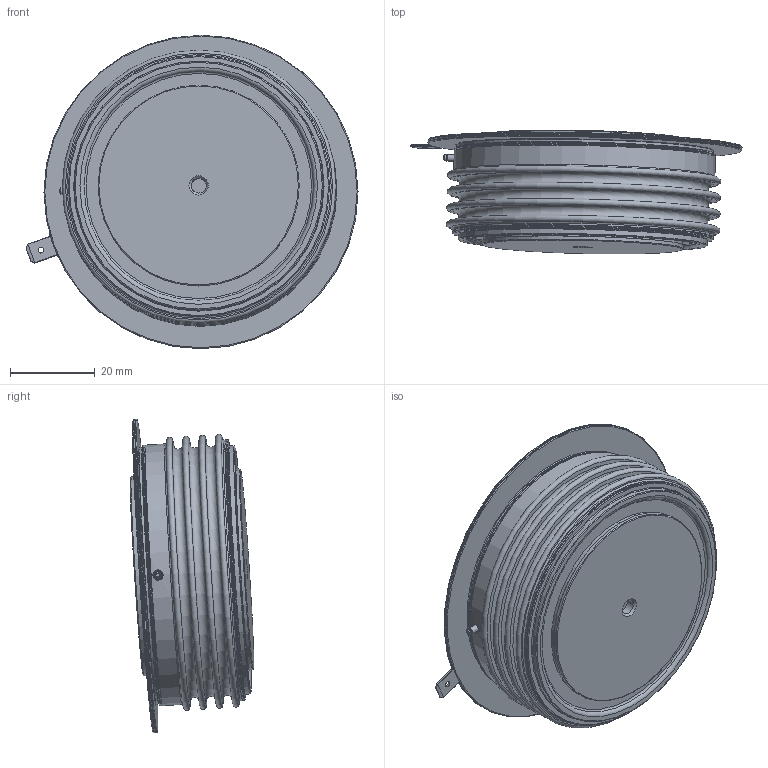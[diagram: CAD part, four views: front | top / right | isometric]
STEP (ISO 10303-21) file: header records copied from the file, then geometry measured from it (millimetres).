
FILE_DESCRIPTION(/* description */ (''),/* implementation_level */ '2;1');
FILE_NAME(/* name */ '\\10.38.22.188\03_技術部共有\S2_商品技術課\S2102_ハイパワー製品群\01_IXYS製品測定データ\005 図面\★ 3Dモデル\サイリスタ\I1132PA300\I1132PA300.stp',/* time_stamp */ '2024-03-06T09:57:50+09:00',/* author */ ('00210404296'),/* organization */ (''),/* preprocessor_version */ 'ST-DEVELOPER v17',/* originating_system */ 'Autodesk Inventor 2019',/* authorisation */ '');
FILE_SCHEMA (('AUTOMOTIVE_DESIGN { 1 0 10303 214 3 1 1 }'));
Length unit declared in the file: millimetre
Products named in the file (4): I1132PA300_モデル_完成版; I1132PA300; Cathodeタブ端子2(垣内作成中); GATE端子_I1132PA300
Assembly tree (3 placements, depth 2):
  I1132PA300_モデル_完成版
    I1132PA300
    Cathodeタブ端子2(垣内作成中)
    GATE端子_I1132PA300
Bounding box: 78.23 x 29.14 x 73.88 mm (x, y, z)
Volume: 73615.7 mm3; surface area: 17281.3 mm2
Topology: 3 solids, 3 shells, 114 faces, 285 edges, 198 vertices
Faces by surface type: cylinder 38, plane 37, torus 31, sphere 4, cone 3, bspline 1
Full cylindrical faces by diameter (mm): 1.1 x1, 1.4 x1, 1.5 x2, 2 x2, 3.55 x2, 47 x2, 47.388 x1, 58.643 x1, 60.416 x1, 61.554 x4, 74 x2
Entity records: 3921 total; most frequent: CARTESIAN_POINT 812, DIRECTION 714, ORIENTED_EDGE 572, AXIS2_PLACEMENT_3D 324, EDGE_CURVE 286, VERTEX_POINT 199, CIRCLE 188, EDGE_LOOP 137
